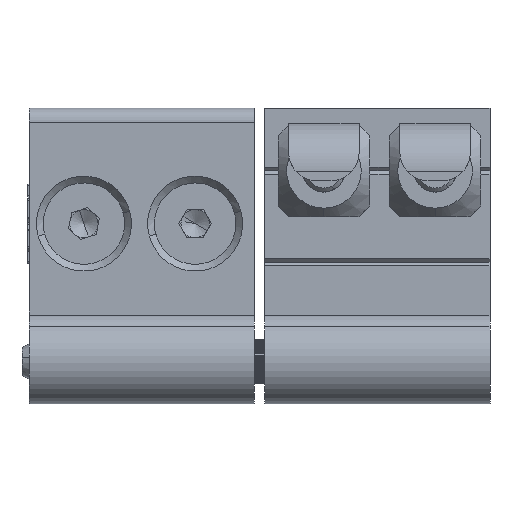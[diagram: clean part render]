
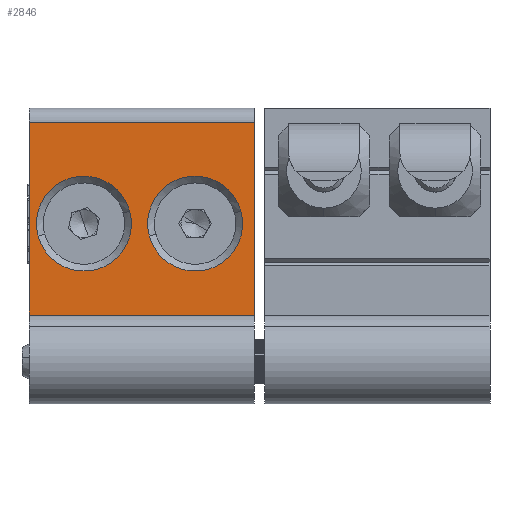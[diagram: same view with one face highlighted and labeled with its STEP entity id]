
A CAD part, front view. The second image highlights one B-rep face of the part: STEP entity #2846.
In plain terms, the highlighted planar face has unit normal (0, -1, 0).
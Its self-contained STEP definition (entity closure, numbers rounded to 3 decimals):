
#116 = DIRECTION ( 'NONE',  ( -1., 0., 0. ) ) ;
#1955 = LINE ( 'NONE', #17042, #2463 ) ;
#2228 = ORIENTED_EDGE ( 'NONE', *, *, #32459, .F. ) ;
#2463 = VECTOR ( 'NONE', #19509, 1000. ) ;
#2846 = ADVANCED_FACE ( 'NONE', ( #30093, #19670, #29783 ), #32405, .T. ) ;
#2953 = DIRECTION ( 'NONE',  ( 1., 0., 0. ) ) ;
#3675 = VERTEX_POINT ( 'NONE', #31443 ) ;
#3788 = EDGE_CURVE ( 'NONE', #22270, #20150, #22829, .T. ) ;
#3908 = CARTESIAN_POINT ( 'NONE',  ( -23.833, 11.534, -5.259 ) ) ;
#4433 = VERTEX_POINT ( 'NONE', #9072 ) ;
#4694 = DIRECTION ( 'NONE',  ( 0., -1., 0. ) ) ;
#5099 = CIRCLE ( 'NONE', #19786, 6.75 ) ;
#5370 = CARTESIAN_POINT ( 'NONE',  ( 0.367, 11.534, 9.141 ) ) ;
#6514 = EDGE_CURVE ( 'NONE', #21324, #31593, #9127, .T. ) ;
#6787 = CARTESIAN_POINT ( 'NONE',  ( 0.367, 11.534, -18.245 ) ) ;
#6942 = CARTESIAN_POINT ( 'NONE',  ( -31.633, 11.534, -18.245 ) ) ;
#7579 = AXIS2_PLACEMENT_3D ( 'NONE', #9226, #9717, #16610 ) ;
#7592 = CARTESIAN_POINT ( 'NONE',  ( 0.367, 11.534, -18.245 ) ) ;
#7733 = CARTESIAN_POINT ( 'NONE',  ( -31.633, 11.534, -18.245 ) ) ;
#8250 = ORIENTED_EDGE ( 'NONE', *, *, #19696, .F. ) ;
#8509 = DIRECTION ( 'NONE',  ( -1., 0., 0. ) ) ;
#8516 = EDGE_CURVE ( 'NONE', #31593, #4433, #12916, .T. ) ;
#9072 = CARTESIAN_POINT ( 'NONE',  ( -31.633, 11.534, 9.141 ) ) ;
#9127 = LINE ( 'NONE', #6787, #9516 ) ;
#9226 = CARTESIAN_POINT ( 'NONE',  ( 1.007, 11.534, -4.552 ) ) ;
#9229 = CARTESIAN_POINT ( 'NONE',  ( 0.367, 11.534, 9.141 ) ) ;
#9419 = LINE ( 'NONE', #6942, #11230 ) ;
#9503 = EDGE_LOOP ( 'NONE', ( #24880, #18311, #23751, #9942 ) ) ;
#9516 = VECTOR ( 'NONE', #19116, 1000. ) ;
#9717 = DIRECTION ( 'NONE',  ( 0., -1., 0. ) ) ;
#9800 = AXIS2_PLACEMENT_3D ( 'NONE', #16198, #21300, #16049 ) ;
#9942 = ORIENTED_EDGE ( 'NONE', *, *, #10219, .T. ) ;
#10219 = EDGE_CURVE ( 'NONE', #4433, #30978, #1955, .T. ) ;
#11230 = VECTOR ( 'NONE', #16958, 1000. ) ;
#12242 = CARTESIAN_POINT ( 'NONE',  ( -23.833, 11.534, -5.259 ) ) ;
#12916 = LINE ( 'NONE', #5370, #21919 ) ;
#13416 = CIRCLE ( 'NONE', #9800, 6.75 ) ;
#13907 = DIRECTION ( 'NONE',  ( 0., -1., 0. ) ) ;
#15390 = ORIENTED_EDGE ( 'NONE', *, *, #3788, .F. ) ;
#16049 = DIRECTION ( 'NONE',  ( 1., 0., 0. ) ) ;
#16198 = CARTESIAN_POINT ( 'NONE',  ( -8.033, 11.534, -5.259 ) ) ;
#16305 = ORIENTED_EDGE ( 'NONE', *, *, #21494, .F. ) ;
#16610 = DIRECTION ( 'NONE',  ( 0., 0., -1. ) ) ;
#16958 = DIRECTION ( 'NONE',  ( 1., 0., 0. ) ) ;
#17042 = CARTESIAN_POINT ( 'NONE',  ( -31.633, 11.534, 9.141 ) ) ;
#18311 = ORIENTED_EDGE ( 'NONE', *, *, #6514, .T. ) ;
#19003 = DIRECTION ( 'NONE',  ( -1., 0., 0. ) ) ;
#19116 = DIRECTION ( 'NONE',  ( 0., 0., 1. ) ) ;
#19509 = DIRECTION ( 'NONE',  ( 0., 0., -1. ) ) ;
#19670 = FACE_BOUND ( 'NONE', #31677, .T. ) ;
#19696 = EDGE_CURVE ( 'NONE', #28249, #3675, #13416, .T. ) ;
#19786 = AXIS2_PLACEMENT_3D ( 'NONE', #26035, #28843, #2953 ) ;
#20150 = VERTEX_POINT ( 'NONE', #27909 ) ;
#20718 = AXIS2_PLACEMENT_3D ( 'NONE', #12242, #4694, #116 ) ;
#21300 = DIRECTION ( 'NONE',  ( 0., -1., 0. ) ) ;
#21324 = VERTEX_POINT ( 'NONE', #7592 ) ;
#21494 = EDGE_CURVE ( 'NONE', #20150, #22270, #24971, .T. ) ;
#21919 = VECTOR ( 'NONE', #8509, 1000. ) ;
#22270 = VERTEX_POINT ( 'NONE', #24051 ) ;
#22829 = CIRCLE ( 'NONE', #27113, 6.75 ) ;
#23751 = ORIENTED_EDGE ( 'NONE', *, *, #8516, .T. ) ;
#24051 = CARTESIAN_POINT ( 'NONE',  ( -30.35, 11.534, -7.02 ) ) ;
#24880 = ORIENTED_EDGE ( 'NONE', *, *, #27180, .T. ) ;
#24971 = CIRCLE ( 'NONE', #20718, 6.75 ) ;
#26035 = CARTESIAN_POINT ( 'NONE',  ( -8.033, 11.534, -5.259 ) ) ;
#27113 = AXIS2_PLACEMENT_3D ( 'NONE', #3908, #13907, #19003 ) ;
#27180 = EDGE_CURVE ( 'NONE', #30978, #21324, #9419, .T. ) ;
#27909 = CARTESIAN_POINT ( 'NONE',  ( -17.317, 11.534, -3.499 ) ) ;
#28249 = VERTEX_POINT ( 'NONE', #29981 ) ;
#28808 = EDGE_LOOP ( 'NONE', ( #2228, #8250 ) ) ;
#28843 = DIRECTION ( 'NONE',  ( 0., -1., 0. ) ) ;
#29783 = FACE_OUTER_BOUND ( 'NONE', #9503, .T. ) ;
#29981 = CARTESIAN_POINT ( 'NONE',  ( -1.517, 11.534, -3.499 ) ) ;
#30093 = FACE_BOUND ( 'NONE', #28808, .T. ) ;
#30978 = VERTEX_POINT ( 'NONE', #7733 ) ;
#31443 = CARTESIAN_POINT ( 'NONE',  ( -14.55, 11.534, -7.02 ) ) ;
#31593 = VERTEX_POINT ( 'NONE', #9229 ) ;
#31677 = EDGE_LOOP ( 'NONE', ( #15390, #16305 ) ) ;
#32405 = PLANE ( 'NONE',  #7579 ) ;
#32459 = EDGE_CURVE ( 'NONE', #3675, #28249, #5099, .T. ) ;
